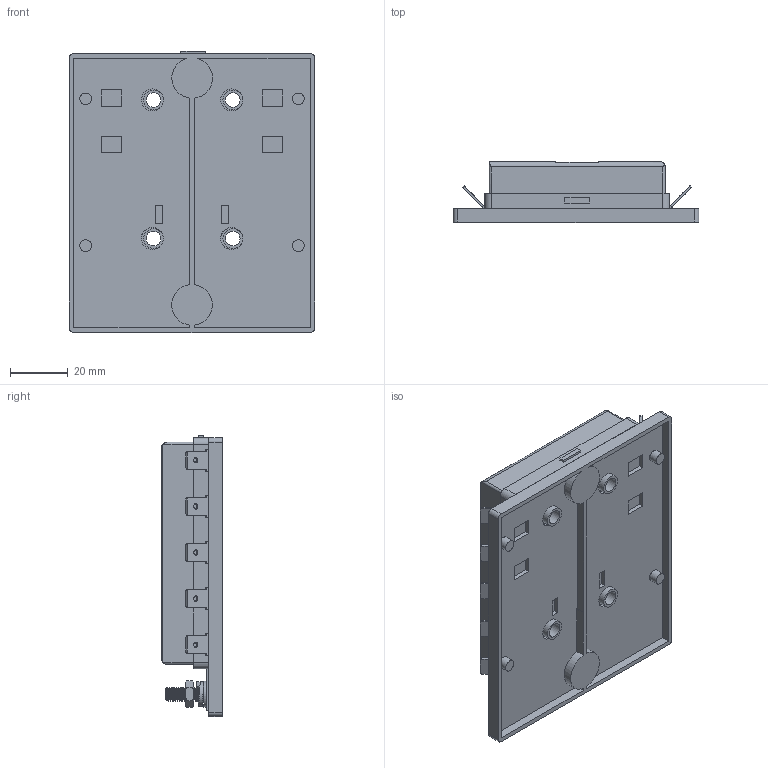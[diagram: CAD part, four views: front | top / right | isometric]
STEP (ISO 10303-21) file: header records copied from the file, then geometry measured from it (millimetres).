
FILE_DESCRIPTION(/* description */ (''),/* implementation_level */ '2;1');
FILE_NAME(/* name */ 'C:\Users\Hani\Desktop\work\BLM-310\BLM-310.stp',/* time_stamp */ '2020-08-26T21:11:59-07:00',/* author */ ('Hani'),/* organization */ (''),/* preprocessor_version */ 'ST-DEVELOPER v17',/* originating_system */ 'Autodesk Inventor 2019',/* authorisation */ '');
FILE_SCHEMA (('AUTOMOTIVE_DESIGN { 1 0 10303 214 3 1 1 }'));
Length unit declared in the file: inch
Products named in the file (10): BLC-106-G; BLC-106-G_1; BLOCK; plate2; STUD; WASHER; LOCK WASHER; HEX NUT; terminal; terminal_MIR
Assembly tree (17 placements, depth 2):
  BLC-106-G
    BLC-106-G_1
    BLOCK
    plate2
    STUD
    WASHER
    LOCK WASHER
    HEX NUT
    terminal  x5
    terminal_MIR  x5
Bounding box: 85.09 x 21.01 x 97.28 mm (x, y, z)
Volume: 92087.9 mm3; surface area: 46800.9 mm2
Topology: 17 solids, 17 shells, 904 faces, 2345 edges, 1544 vertices
Faces by surface type: plane 578, cylinder 138, bspline 123, cone 48, torus 17
Full cylindrical faces by diameter (mm): 1.905 x10, 3.769 x16, 3.795 x1, 4.064 x4, 4.801 x17, 4.826 x3, 4.953 x1, 5.08 x5, 6.858 x4, 7.62 x4, 8.992 x1, 9.398 x4
Entity records: 28558 total; most frequent: CARTESIAN_POINT 10074, ORIENTED_EDGE 3990, DIRECTION 3244, EDGE_CURVE 1995, LINE 1356, VECTOR 1356, VERTEX_POINT 1308, AXIS2_PLACEMENT_3D 944
